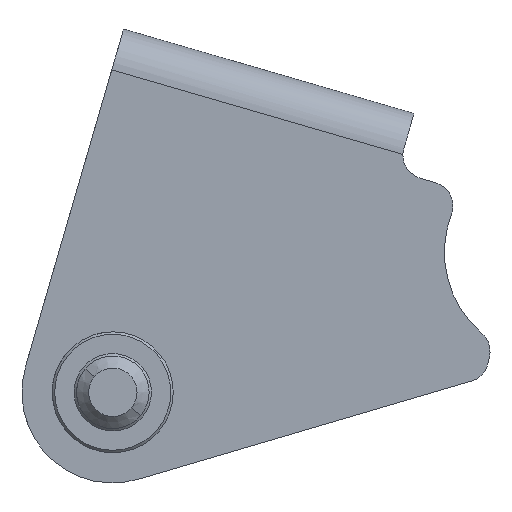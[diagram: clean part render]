
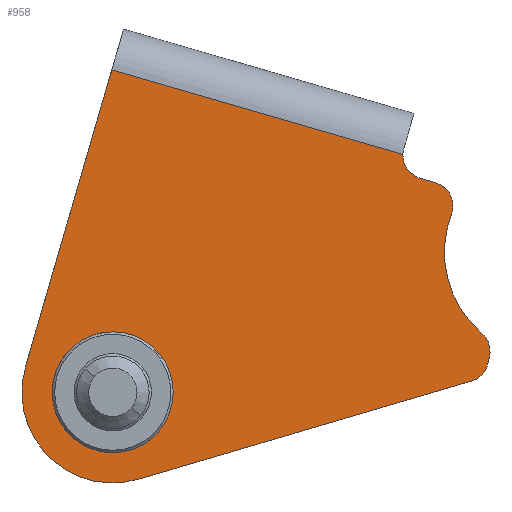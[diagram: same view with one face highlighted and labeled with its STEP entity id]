
A CAD part, front view. The second image highlights one B-rep face of the part: STEP entity #958.
In plain terms, the highlighted planar face has unit normal (0.001, -1, 0).
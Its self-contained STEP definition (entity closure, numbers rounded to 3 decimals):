
#852=VECTOR('Line Direction',#851,1.) ;
#868=VECTOR('Line Direction',#867,1.) ;
#882=VECTOR('Line Direction',#881,1.) ;
#910=VECTOR('Line Direction',#909,1.) ;
#924=VECTOR('Line Direction',#923,1.) ;
#846=DIRECTION('Axis2P3D Direction',(0.001,-1.,0.)) ;
#847=DIRECTION('Axis2P3D XDirection',(0.981,0.001,-0.194)) ;
#851=DIRECTION('Vector Direction',(-0.279,0.,-0.96)) ;
#860=DIRECTION('Axis2P3D Direction',(0.001,-1.,0.)) ;
#867=DIRECTION('Vector Direction',(-0.959,-0.001,-0.283)) ;
#874=DIRECTION('Axis2P3D Direction',(0.001,-1.,0.)) ;
#881=DIRECTION('Vector Direction',(0.194,0.,0.981)) ;
#888=DIRECTION('Axis2P3D Direction',(0.001,-1.,0.)) ;
#895=DIRECTION('Axis2P3D Direction',(0.001,-1.,0.)) ;
#902=DIRECTION('Axis2P3D Direction',(0.001,-1.,0.)) ;
#909=DIRECTION('Vector Direction',(-0.96,-0.001,0.279)) ;
#916=DIRECTION('Axis2P3D Direction',(0.001,-1.,0.)) ;
#923=DIRECTION('Vector Direction',(0.96,0.001,-0.279)) ;
#941=DIRECTION('Axis2P3D Direction',(0.001,-1.,0.)) ;
#950=DIRECTION('Axis2P3D Direction',(0.001,-1.,0.)) ;
#845=CARTESIAN_POINT('Axis2P3D Location',(886.058,-653.229,321.185)) ;
#850=CARTESIAN_POINT('Line Origine',(1042.371,-653.108,285.117)) ;
#854=CARTESIAN_POINT('Vertex',(1038.8,-653.11,272.826)) ;
#856=CARTESIAN_POINT('Vertex',(1045.942,-653.105,297.407)) ;
#859=CARTESIAN_POINT('Axis2P3D Location',(1046.002,-653.105,270.734)) ;
#863=CARTESIAN_POINT('Vertex',(1048.123,-653.103,263.54)) ;
#866=CARTESIAN_POINT('Line Origine',(1061.9,-653.092,267.602)) ;
#870=CARTESIAN_POINT('Vertex',(1075.677,-653.082,271.664)) ;
#873=CARTESIAN_POINT('Axis2P3D Location',(1075.111,-653.082,273.582)) ;
#877=CARTESIAN_POINT('Vertex',(1077.073,-653.081,273.194)) ;
#880=CARTESIAN_POINT('Line Origine',(1077.125,-653.081,273.457)) ;
#884=CARTESIAN_POINT('Vertex',(1077.177,-653.081,273.721)) ;
#887=CARTESIAN_POINT('Axis2P3D Location',(1075.216,-653.082,274.11)) ;
#891=CARTESIAN_POINT('Vertex',(1076.517,-653.081,275.628)) ;
#894=CARTESIAN_POINT('Axis2P3D Location',(1082.244,-653.077,282.31)) ;
#898=CARTESIAN_POINT('Vertex',(1074.018,-653.083,285.437)) ;
#901=CARTESIAN_POINT('Axis2P3D Location',(1072.149,-653.084,286.148)) ;
#905=CARTESIAN_POINT('Vertex',(1072.707,-653.084,288.068)) ;
#908=CARTESIAN_POINT('Line Origine',(1072.079,-653.085,288.251)) ;
#912=CARTESIAN_POINT('Vertex',(1071.451,-653.085,288.433)) ;
#915=CARTESIAN_POINT('Axis2P3D Location',(1072.009,-653.085,290.354)) ;
#919=CARTESIAN_POINT('Vertex',(1070.01,-653.086,290.414)) ;
#922=CARTESIAN_POINT('Line Origine',(1057.976,-653.095,293.91)) ;
#940=CARTESIAN_POINT('Axis2P3D Location',(1046.002,-653.105,270.734)) ;
#944=CARTESIAN_POINT('Vertex',(1043.002,-653.107,270.734)) ;
#946=CARTESIAN_POINT('Vertex',(1049.002,-653.102,270.734)) ;
#949=CARTESIAN_POINT('Axis2P3D Location',(1046.002,-653.105,270.734)) ;
#848=AXIS2_PLACEMENT_3D('Plane Axis2P3D',#845,#846,#847) ;
#861=AXIS2_PLACEMENT_3D('Circle Axis2P3D',#859,#860,$) ;
#875=AXIS2_PLACEMENT_3D('Circle Axis2P3D',#873,#874,$) ;
#889=AXIS2_PLACEMENT_3D('Circle Axis2P3D',#887,#888,$) ;
#896=AXIS2_PLACEMENT_3D('Circle Axis2P3D',#894,#895,$) ;
#903=AXIS2_PLACEMENT_3D('Circle Axis2P3D',#901,#902,$) ;
#917=AXIS2_PLACEMENT_3D('Circle Axis2P3D',#915,#916,$) ;
#942=AXIS2_PLACEMENT_3D('Circle Axis2P3D',#940,#941,$) ;
#951=AXIS2_PLACEMENT_3D('Circle Axis2P3D',#949,#950,$) ;
#957=FACE_BOUND('',#954,.T.) ;
#858=EDGE_CURVE('',#855,#857,#853,.F.) ;
#865=EDGE_CURVE('',#864,#855,#862,.F.) ;
#872=EDGE_CURVE('',#871,#864,#869,.T.) ;
#879=EDGE_CURVE('',#878,#871,#876,.F.) ;
#886=EDGE_CURVE('',#885,#878,#883,.F.) ;
#893=EDGE_CURVE('',#892,#885,#890,.F.) ;
#900=EDGE_CURVE('',#899,#892,#897,.T.) ;
#907=EDGE_CURVE('',#906,#899,#904,.F.) ;
#914=EDGE_CURVE('',#913,#906,#911,.F.) ;
#921=EDGE_CURVE('',#913,#920,#918,.F.) ;
#926=EDGE_CURVE('',#857,#920,#925,.T.) ;
#948=EDGE_CURVE('',#945,#947,#943,.T.) ;
#953=EDGE_CURVE('',#947,#945,#952,.T.) ;
#849=PLANE('Plane',#848) ;
#928=ORIENTED_EDGE('',*,*,#858,.F.) ;
#929=ORIENTED_EDGE('',*,*,#865,.F.) ;
#930=ORIENTED_EDGE('',*,*,#872,.F.) ;
#931=ORIENTED_EDGE('',*,*,#879,.F.) ;
#932=ORIENTED_EDGE('',*,*,#886,.F.) ;
#933=ORIENTED_EDGE('',*,*,#893,.F.) ;
#934=ORIENTED_EDGE('',*,*,#900,.F.) ;
#935=ORIENTED_EDGE('',*,*,#907,.F.) ;
#936=ORIENTED_EDGE('',*,*,#914,.F.) ;
#937=ORIENTED_EDGE('',*,*,#921,.T.) ;
#938=ORIENTED_EDGE('',*,*,#926,.F.) ;
#955=ORIENTED_EDGE('',*,*,#948,.F.) ;
#956=ORIENTED_EDGE('',*,*,#953,.F.) ;
#853=LINE('Line',#850,#852) ;
#869=LINE('Line',#866,#868) ;
#883=LINE('Line',#880,#882) ;
#911=LINE('Line',#908,#910) ;
#925=LINE('Line',#922,#924) ;
#958=ADVANCED_FACE('\X2\96F64EF651E04F554F53\X0\',(#939,#957),#849,.T.) ;
#862=CIRCLE('generated circle',#861,7.5) ;
#876=CIRCLE('generated circle',#875,2.) ;
#890=CIRCLE('generated circle',#889,2.) ;
#897=CIRCLE('generated circle',#896,8.8) ;
#904=CIRCLE('generated circle',#903,2.) ;
#918=CIRCLE('generated circle',#917,2.) ;
#943=CIRCLE('generated circle',#942,3.) ;
#952=CIRCLE('generated circle',#951,3.) ;
#855=VERTEX_POINT('',#854) ;
#857=VERTEX_POINT('',#856) ;
#864=VERTEX_POINT('',#863) ;
#871=VERTEX_POINT('',#870) ;
#878=VERTEX_POINT('',#877) ;
#885=VERTEX_POINT('',#884) ;
#892=VERTEX_POINT('',#891) ;
#899=VERTEX_POINT('',#898) ;
#906=VERTEX_POINT('',#905) ;
#913=VERTEX_POINT('',#912) ;
#920=VERTEX_POINT('',#919) ;
#945=VERTEX_POINT('',#944) ;
#947=VERTEX_POINT('',#946) ;
#927=EDGE_LOOP('',(#928,#929,#930,#931,#932,#933,#934,#935,#936,#937,#938)) ;
#954=EDGE_LOOP('',(#955,#956)) ;
#939=FACE_OUTER_BOUND('',#927,.T.) ;
